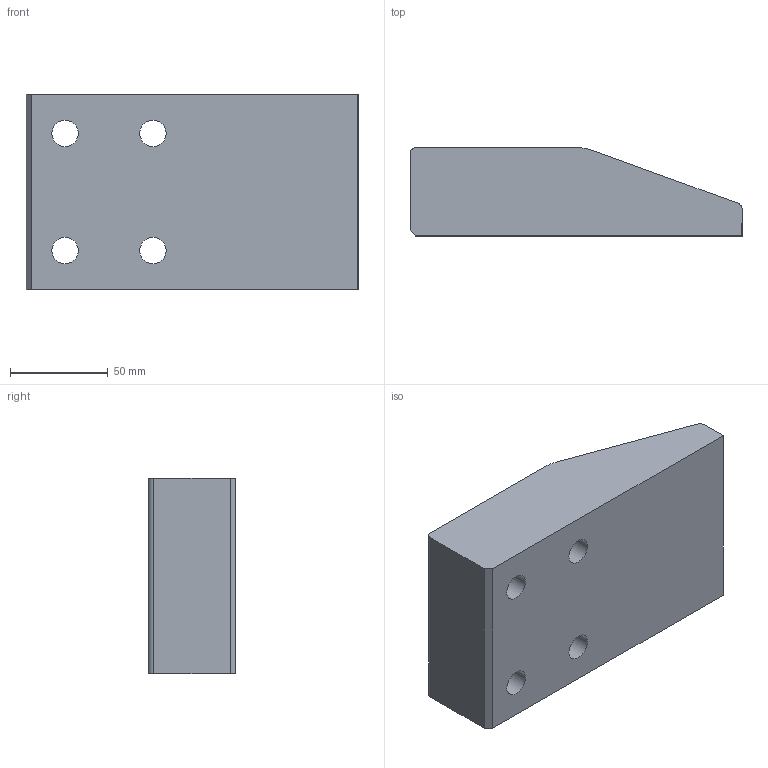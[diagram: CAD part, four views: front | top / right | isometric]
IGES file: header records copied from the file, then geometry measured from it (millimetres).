
Start section: Data from Parasolid IGES Translator 20.0.26, Copyright(c) 2006 Siemens P LM Software. All Rights Reserved.
Global section: file name: G228-01-10017045.igs; native system: By Siemens PLM Incorporated; preprocessor: XPlus GENERIC/IGES 20.0.26; author: Noname; organization: Noname; date: 20190710.094456; units: millimetre
Bounding box: 170 x 45 x 100 mm (x, y, z)
Surface area: 61825.3 mm2 (no closed solid volume)
Topology: 0 solids, 0 shells, 27 faces, 118 edges, 94 vertices
Faces by surface type: revolution 15, extrusion 12
